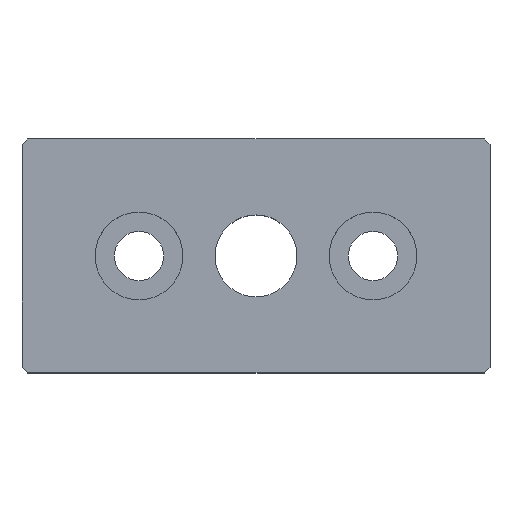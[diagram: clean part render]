
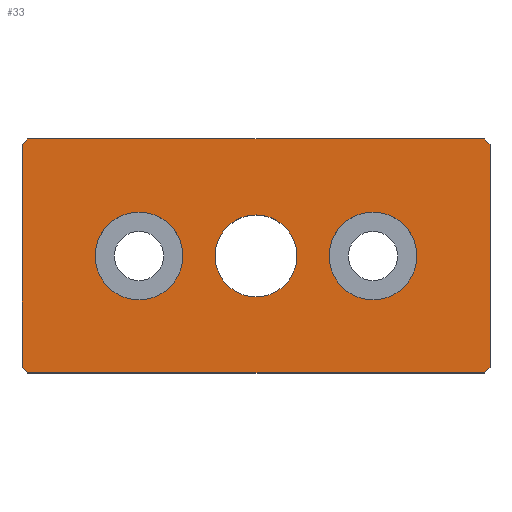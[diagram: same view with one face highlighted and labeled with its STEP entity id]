
A CAD part, top view. The second image highlights one B-rep face of the part: STEP entity #33.
In plain terms, the highlighted planar face has unit normal (0, 0, 1).
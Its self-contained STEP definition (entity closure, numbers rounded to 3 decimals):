
#12 = ORIENTED_EDGE ( 'NONE', *, *, #142, .T. ) ;
#31 = DIRECTION ( 'NONE',  ( 0.707, 0.707, 0. ) ) ;
#33 = ADVANCED_FACE ( 'NONE', ( #564, #279, #506, #730 ), #216, .T. ) ;
#34 = CARTESIAN_POINT ( 'NONE',  ( -23.796, -23.796, 12. ) ) ;
#40 = EDGE_CURVE ( 'NONE', #162, #533, #461, .T. ) ;
#44 = DIRECTION ( 'NONE',  ( -1., 0., 0. ) ) ;
#48 = DIRECTION ( 'NONE',  ( -1., 0., 0. ) ) ;
#53 = CARTESIAN_POINT ( 'NONE',  ( -17.571, 8.979, 12. ) ) ;
#57 = CARTESIAN_POINT ( 'NONE',  ( 22.429, -11.021, 12. ) ) ;
#58 = CARTESIAN_POINT ( 'NONE',  ( 35.204, 35.204, 12. ) ) ;
#59 = EDGE_LOOP ( 'NONE', ( #606, #286 ) ) ;
#62 = CARTESIAN_POINT ( 'NONE',  ( -16.571, 8.979, 12. ) ) ;
#66 = CARTESIAN_POINT ( 'NONE',  ( 29.429, -11.021, 12. ) ) ;
#70 = EDGE_LOOP ( 'NONE', ( #230, #650 ) ) ;
#75 = VERTEX_POINT ( 'NONE', #66 ) ;
#78 = CARTESIAN_POINT ( 'NONE',  ( -12.775, 12.775, 12. ) ) ;
#83 = VERTEX_POINT ( 'NONE', #124 ) ;
#84 = VECTOR ( 'NONE', #436, 1000. ) ;
#87 = ORIENTED_EDGE ( 'NONE', *, *, #306, .T. ) ;
#103 = CARTESIAN_POINT ( 'NONE',  ( 62.429, 8.979, 12. ) ) ;
#104 = EDGE_CURVE ( 'NONE', #533, #162, #133, .T. ) ;
#111 = LINE ( 'NONE', #58, #196 ) ;
#113 = DIRECTION ( 'NONE',  ( -1., 0., 0. ) ) ;
#124 = CARTESIAN_POINT ( 'NONE',  ( 15.429, -11.021, 12. ) ) ;
#131 = VERTEX_POINT ( 'NONE', #297 ) ;
#133 = CIRCLE ( 'NONE', #147, 7.5 ) ;
#137 = EDGE_CURVE ( 'NONE', #131, #657, #397, .T. ) ;
#142 = EDGE_CURVE ( 'NONE', #657, #373, #111, .T. ) ;
#147 = AXIS2_PLACEMENT_3D ( 'NONE', #178, #229, #455 ) ;
#149 = AXIS2_PLACEMENT_3D ( 'NONE', #57, #168, #48 ) ;
#151 = VERTEX_POINT ( 'NONE', #645 ) ;
#153 = CARTESIAN_POINT ( 'NONE',  ( 46.225, -46.225, 12. ) ) ;
#159 = VECTOR ( 'NONE', #415, 1000. ) ;
#162 = VERTEX_POINT ( 'NONE', #424 ) ;
#168 = DIRECTION ( 'NONE',  ( 0., 0., -1. ) ) ;
#176 = ORIENTED_EDGE ( 'NONE', *, *, #179, .T. ) ;
#178 = CARTESIAN_POINT ( 'NONE',  ( 42.429, -11.021, 12. ) ) ;
#179 = EDGE_CURVE ( 'NONE', #151, #586, #365, .T. ) ;
#181 = DIRECTION ( 'NONE',  ( 0., -1., 0. ) ) ;
#187 = DIRECTION ( 'NONE',  ( 1., 0., 0. ) ) ;
#191 = LINE ( 'NONE', #78, #390 ) ;
#192 = ORIENTED_EDGE ( 'NONE', *, *, #222, .F. ) ;
#194 = CARTESIAN_POINT ( 'NONE',  ( 2.429, -11.021, 12. ) ) ;
#196 = VECTOR ( 'NONE', #473, 1000. ) ;
#197 = CIRCLE ( 'NONE', #748, 7.5 ) ;
#201 = EDGE_CURVE ( 'NONE', #323, #431, #197, .T. ) ;
#212 = LINE ( 'NONE', #153, #449 ) ;
#216 = PLANE ( 'NONE',  #272 ) ;
#222 = EDGE_CURVE ( 'NONE', #431, #323, #260, .T. ) ;
#229 = DIRECTION ( 'NONE',  ( 0., 0., 1. ) ) ;
#230 = ORIENTED_EDGE ( 'NONE', *, *, #495, .T. ) ;
#233 = CIRCLE ( 'NONE', #656, 7. ) ;
#241 = CARTESIAN_POINT ( 'NONE',  ( 42.429, -11.021, 12. ) ) ;
#248 = CIRCLE ( 'NONE', #149, 7. ) ;
#253 = CARTESIAN_POINT ( 'NONE',  ( 61.429, -31.021, 12. ) ) ;
#255 = ORIENTED_EDGE ( 'NONE', *, *, #137, .T. ) ;
#260 = CIRCLE ( 'NONE', #296, 7.5 ) ;
#261 = VECTOR ( 'NONE', #181, 1000. ) ;
#263 = DIRECTION ( 'NONE',  ( 1., 0., 0. ) ) ;
#271 = EDGE_CURVE ( 'NONE', #552, #426, #191, .T. ) ;
#272 = AXIS2_PLACEMENT_3D ( 'NONE', #395, #623, #361 ) ;
#274 = VECTOR ( 'NONE', #113, 1000. ) ;
#279 = FACE_BOUND ( 'NONE', #59, .T. ) ;
#286 = ORIENTED_EDGE ( 'NONE', *, *, #40, .F. ) ;
#288 = CARTESIAN_POINT ( 'NONE',  ( 22.429, -11.021, 12. ) ) ;
#290 = ORIENTED_EDGE ( 'NONE', *, *, #504, .T. ) ;
#296 = AXIS2_PLACEMENT_3D ( 'NONE', #194, #432, #263 ) ;
#297 = CARTESIAN_POINT ( 'NONE',  ( 62.429, -30.021, 12. ) ) ;
#306 = EDGE_CURVE ( 'NONE', #747, #151, #339, .T. ) ;
#317 = CARTESIAN_POINT ( 'NONE',  ( -17.571, -30.021, 12. ) ) ;
#322 = CARTESIAN_POINT ( 'NONE',  ( -17.571, -31.021, 12. ) ) ;
#323 = VERTEX_POINT ( 'NONE', #732 ) ;
#331 = EDGE_LOOP ( 'NONE', ( #176, #481, #255, #12, #725, #634, #290, #87 ) ) ;
#339 = LINE ( 'NONE', #34, #84 ) ;
#361 = DIRECTION ( 'NONE',  ( 1., 0., 0. ) ) ;
#365 = LINE ( 'NONE', #322, #583 ) ;
#367 = DIRECTION ( 'NONE',  ( 0., 0., 1. ) ) ;
#373 = VERTEX_POINT ( 'NONE', #391 ) ;
#390 = VECTOR ( 'NONE', #545, 1000. ) ;
#391 = CARTESIAN_POINT ( 'NONE',  ( 61.429, 8.979, 12. ) ) ;
#395 = CARTESIAN_POINT ( 'NONE',  ( 0., 0., 12. ) ) ;
#397 = LINE ( 'NONE', #633, #159 ) ;
#409 = CARTESIAN_POINT ( 'NONE',  ( 49.929, -11.021, 12. ) ) ;
#412 = EDGE_CURVE ( 'NONE', #586, #131, #212, .T. ) ;
#415 = DIRECTION ( 'NONE',  ( 0., 1., 0. ) ) ;
#424 = CARTESIAN_POINT ( 'NONE',  ( 34.929, -11.021, 12. ) ) ;
#426 = VERTEX_POINT ( 'NONE', #723 ) ;
#431 = VERTEX_POINT ( 'NONE', #671 ) ;
#432 = DIRECTION ( 'NONE',  ( 0., 0., 1. ) ) ;
#436 = DIRECTION ( 'NONE',  ( 0.707, -0.707, 0. ) ) ;
#449 = VECTOR ( 'NONE', #31, 1000. ) ;
#455 = DIRECTION ( 'NONE',  ( 1., 0., 0. ) ) ;
#461 = CIRCLE ( 'NONE', #476, 7.5 ) ;
#462 = EDGE_CURVE ( 'NONE', #75, #83, #248, .T. ) ;
#471 = EDGE_LOOP ( 'NONE', ( #192, #503 ) ) ;
#473 = DIRECTION ( 'NONE',  ( -0.707, 0.707, 0. ) ) ;
#476 = AXIS2_PLACEMENT_3D ( 'NONE', #241, #527, #517 ) ;
#481 = ORIENTED_EDGE ( 'NONE', *, *, #412, .T. ) ;
#486 = DIRECTION ( 'NONE',  ( 1., 0., 0. ) ) ;
#495 = EDGE_CURVE ( 'NONE', #83, #75, #233, .T. ) ;
#503 = ORIENTED_EDGE ( 'NONE', *, *, #201, .F. ) ;
#504 = EDGE_CURVE ( 'NONE', #426, #747, #525, .T. ) ;
#506 = FACE_BOUND ( 'NONE', #70, .T. ) ;
#516 = LINE ( 'NONE', #103, #274 ) ;
#517 = DIRECTION ( 'NONE',  ( 1., 0., 0. ) ) ;
#525 = LINE ( 'NONE', #53, #261 ) ;
#527 = DIRECTION ( 'NONE',  ( 0., 0., 1. ) ) ;
#533 = VERTEX_POINT ( 'NONE', #409 ) ;
#540 = CARTESIAN_POINT ( 'NONE',  ( 62.429, 7.979, 12. ) ) ;
#543 = EDGE_CURVE ( 'NONE', #373, #552, #516, .T. ) ;
#545 = DIRECTION ( 'NONE',  ( -0.707, -0.707, 0. ) ) ;
#552 = VERTEX_POINT ( 'NONE', #62 ) ;
#564 = FACE_BOUND ( 'NONE', #471, .T. ) ;
#583 = VECTOR ( 'NONE', #187, 1000. ) ;
#586 = VERTEX_POINT ( 'NONE', #253 ) ;
#606 = ORIENTED_EDGE ( 'NONE', *, *, #104, .F. ) ;
#623 = DIRECTION ( 'NONE',  ( 0., 0., 1. ) ) ;
#633 = CARTESIAN_POINT ( 'NONE',  ( 62.429, -31.021, 12. ) ) ;
#634 = ORIENTED_EDGE ( 'NONE', *, *, #271, .T. ) ;
#645 = CARTESIAN_POINT ( 'NONE',  ( -16.571, -31.021, 12. ) ) ;
#650 = ORIENTED_EDGE ( 'NONE', *, *, #462, .T. ) ;
#656 = AXIS2_PLACEMENT_3D ( 'NONE', #288, #689, #44 ) ;
#657 = VERTEX_POINT ( 'NONE', #540 ) ;
#671 = CARTESIAN_POINT ( 'NONE',  ( 9.929, -11.021, 12. ) ) ;
#689 = DIRECTION ( 'NONE',  ( 0., 0., -1. ) ) ;
#717 = CARTESIAN_POINT ( 'NONE',  ( 2.429, -11.021, 12. ) ) ;
#723 = CARTESIAN_POINT ( 'NONE',  ( -17.571, 7.979, 12. ) ) ;
#725 = ORIENTED_EDGE ( 'NONE', *, *, #543, .T. ) ;
#730 = FACE_OUTER_BOUND ( 'NONE', #331, .T. ) ;
#732 = CARTESIAN_POINT ( 'NONE',  ( -5.071, -11.021, 12. ) ) ;
#747 = VERTEX_POINT ( 'NONE', #317 ) ;
#748 = AXIS2_PLACEMENT_3D ( 'NONE', #717, #367, #486 ) ;
